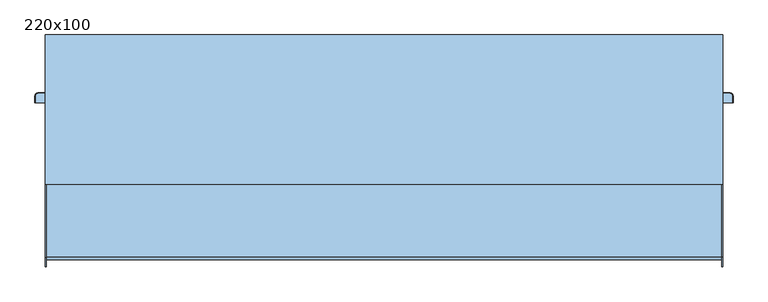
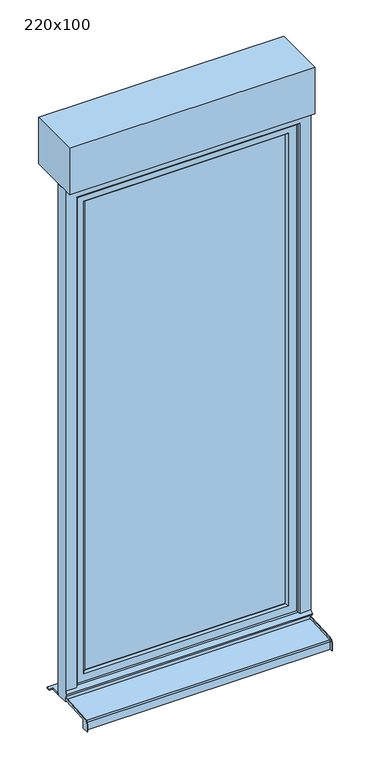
"""IFC4 building model written with IfcOpenShell, lengths in millimetres: window geometry, Tunnel 1V+VR+ Voile : 220x100."""

from ifc_helpers import new_model, si_unit, frame, origin, place, context, project, spatial, polyline, circle_curve, outline, extrude, faceted_brep, source, transform, mapped, element, save
from ifc_brep_helpers import plane_surface, cylinder_surface, revolved_surface, advanced_brep


def window_220x100_16273c3d(model_context):
    return source(origin(), model_context, "Body", "SolidModel", [
        faceted_brep([(-445.5, 73.0, 1306.0), (-445.5, 73.0, 1294.0), (-429.5, 73.0, 1294.0), (-429.5, 73.0, 1306.0), (-429.5, 85.4852814, 1306.0), (-445.5, 85.4852814, 1306.0), (-429.5, 80.5147186, 1294.0), (-429.5, 87.0, 1287.5147186), (-429.5, 87.0, 1287.2282668), (-429.5, 89.7580139, 1208.5355339), (-429.5, 99.0, 1208.5355339), (-429.5, 99.0, 1292.4852814), (-445.5, 80.5147186, 1294.0), (-445.5, 99.0, 1292.4852814), (-445.5, 99.0, 1208.5355339), (-445.5, 89.7580139, 1208.5355339), (-445.5, 87.0099909, 1287.2286157), (-445.5, 87.0, 1287.5147186), (-433.0355339, 99.0, 1205.0), (-433.0355339, 89.8814775, 1205.0), (-441.9644661, 89.8814775, 1205.0), (-441.9644661, 99.0, 1205.0)], [[[0, 1, 2, 3]], [[3, 4, 5, 0]], [[2, 6, 7, 8, 9, 10, 11, 4, 3]], [[1, 12, 6, 2]], [[0, 5, 13, 14, 15, 16, 17, 12, 1]], [[4, 11, 13, 5]], [[6, 12, 17, 7]], [[18, 19, 20, 21]], [[11, 10, 18, 21, 14, 13]], [[17, 16, 8, 7]], [[16, 15, 20, 19, 9, 8]], [[9, 19, 18, 10]], [[14, 21, 20, 15]]]),
        extrude(outline(polyline([(1330.0, -444.5), (1325.0, -449.5), (1275.0, -449.5), (1270.0, -444.5), (1270.0, -430.5), (1275.0, -425.5), (1325.0, -425.5), (1330.0, -430.5), (1330.0, -444.5)])), frame((0.0, 65.0, 0.0), z_axis=(0.0, 1.0, 0.0), x_axis=(0.0, 0.0, 1.0)), (0.0, 0.0, 1.0), 8.0),
        advanced_brep(
        [(-500.0, -115.0, 762.0), (-500.0, -141.5, 762.0), (-500.0, -141.5, 795.1063906), (-500.0, -127.2850393, 810.0858337), (-500.0, 10.0, 817.2806377), (-500.0, 10.0, 805.7648557), (-500.0, -115.0, 799.2138833), (500.0, -115.0, 799.2138833), (500.0, 10.0, 805.7648557), (500.0, 10.0, 817.2806377), (500.0, -127.2850393, 810.0858337), (500.0, -141.5, 795.1063906), (500.0, -141.5, 762.0), (500.0, -115.0, 762.0), (-498.0, 10.0, 817.2806377), (-498.0, 10.0, 807.2669142), (498.0, 10.0, 807.2669142), (498.0, 10.0, 817.2806377), (-498.0, -126.7616798, 800.0995383), (498.0, -126.7616798, 800.0995383), (498.0, -131.5, 795.1063906), (-498.0, -131.5, 795.1063906), (-498.0, -131.5, 762.0), (498.0, -131.5, 762.0), (-498.0, -130.0, 762.0), (498.0, -130.0, 762.0), (498.0, -115.0, 762.0), (498.0, -141.5, 762.0), (-498.0, -141.5, 762.0), (-498.0, -115.0, 762.0), (-498.0, -120.0, 772.0), (498.0, -120.0, 772.0), (-498.0, -121.0606602, 773.0606602), (498.0, -121.0606602, 773.0606602), (-498.0, -130.0, 764.1213203), (498.0, -130.0, 764.1213203), (-498.0, -130.0, 795.0728058), (498.0, -130.0, 795.0728058), (-498.0, -115.0, 799.2138833), (498.0, -115.0, 799.2138833), (498.0, -126.649637, 798.6033517), (-498.0, -126.649637, 798.6033517), (498.0, -141.5, 795.1063906), (498.0, -127.2850393, 810.0858337), (-498.0, -127.2850393, 810.0858337), (-498.0, -141.5, 795.1063906)],
        [
            (0, 1),
            (1, 2),
            (2, 3, circle_curve(frame((-500.0, -126.5, 795.1063906), z_axis=(-1.0, 0.0, 0.0), x_axis=(0.0, -0.05233595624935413, 0.9986295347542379)), 15.0)),
            (3, 4),
            (4, 5),
            (5, 6),
            (6, 0),
            (7, 8),
            (8, 9),
            (9, 10),
            (10, 11, circle_curve(frame((500.0, -126.5, 795.1063906), z_axis=(1.0, 0.0, 0.0), x_axis=(0.0, -1.0, 0.0)), 15.0)),
            (11, 12),
            (12, 13),
            (13, 7),
            (14, 15),
            (15, 16),
            (16, 17),
            (17, 9),
            (8, 5),
            (4, 14),
            (18, 19),
            (19, 16),
            (15, 18),
            (20, 21),
            (21, 22),
            (22, 23),
            (23, 20),
            (24, 25),
            (25, 26),
            (26, 13),
            (12, 27),
            (27, 23),
            (22, 28),
            (28, 1),
            (0, 29),
            (29, 24),
            (30, 31),
            (31, 25),
            (24, 30),
            (32, 33),
            (33, 31),
            (30, 32),
            (34, 35),
            (35, 33),
            (32, 34),
            (36, 37),
            (37, 35),
            (34, 36),
            (38, 6),
            (7, 39),
            (39, 40),
            (40, 41),
            (41, 38),
            (41, 36, circle_curve(frame((-498.0, -126.4646089, 795.0728058), z_axis=(1.0, 0.0, 0.0), x_axis=(0.0, 1.0, 0.0)), 3.5353911)),
            (29, 38),
            (37, 40, circle_curve(frame((498.0, -126.4646089, 795.0728058), z_axis=(-1.0, 0.0, 0.0), x_axis=(0.0, 1.0, 0.0)), 3.5353911)),
            (39, 26),
            (18, 21, circle_curve(frame((-498.0, -126.5, 795.1063906), z_axis=(1.0, 0.0, 0.0), x_axis=(0.0, 1.0, 0.0)), 5.0)),
            (20, 19, circle_curve(frame((498.0, -126.5, 795.1063906), z_axis=(-1.0, 0.0, 0.0), x_axis=(0.0, 1.0, 0.0)), 5.0)),
            (27, 42),
            (42, 43, circle_curve(frame((498.0, -126.5, 795.1063906), z_axis=(-1.0, 0.0, 0.0), x_axis=(0.0, -1.0, 0.0)), 15.0)),
            (43, 17),
            (11, 42),
            (10, 43),
            (14, 44),
            (44, 45, circle_curve(frame((-498.0, -126.5, 795.1063906), z_axis=(1.0, 0.0, 0.0), x_axis=(0.0, -0.05233595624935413, 0.9986295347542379)), 15.0)),
            (45, 28),
            (3, 44),
            (2, 45),
        ],
        [
            plane_surface(frame((-500.0, 10.0, 805.7648557), z_axis=(-1.0, 0.0, 0.0), x_axis=(0.0, 0.0, 1.0))),
            plane_surface(frame((500.0, 10.0, 805.7648557), z_axis=(1.0, 0.0, 0.0), x_axis=(0.0, 0.0, -1.0))),
            plane_surface(frame((-500.0, 10.0, 805.7648557), z_axis=(0.0, 1.0, 0.0), x_axis=(1.0, 0.0, 0.0))),
            plane_surface(frame((-500.0, 10.0, 807.2669142), z_axis=(0.0, -0.052335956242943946, 0.9986295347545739), x_axis=(1.0, 0.0, 0.0))),
            plane_surface(frame((-500.0, -131.5, 795.1063906), z_axis=(0.0, -1.0, 0.0), x_axis=(1.0, 0.0, 0.0))),
            plane_surface(frame((-500.0, -131.5, 762.0), z_axis=(0.0, 0.0, -1.0), x_axis=(1.0, 0.0, 0.0))),
            plane_surface(frame((-500.0, -130.0, 762.0), z_axis=(0.0, 0.7071067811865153, -0.7071067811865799), x_axis=(1.0, 0.0, 0.0))),
            plane_surface(frame((-500.0, -120.0, 772.0), z_axis=(0.0, 0.7071067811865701, 0.707106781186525), x_axis=(1.0, 0.0, 0.0))),
            plane_surface(frame((-500.0, -121.0606602, 773.0606602), z_axis=(0.0, -0.7071067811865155, 0.7071067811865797), x_axis=(1.0, 0.0, 0.0))),
            plane_surface(frame((-500.0, -130.0, 764.1213203), z_axis=(0.0, 1.0, 0.0), x_axis=(1.0, 0.0, 0.0))),
            plane_surface(frame((-500.0, -126.649637, 798.6033517), z_axis=(0.0, 0.0523359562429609, -0.998629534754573), x_axis=(1.0, 0.0, 0.0))),
            plane_surface(frame((-498.0, -130.0, 798.4277666), z_axis=(1.0, 0.0, 0.0), x_axis=(0.0, 0.9986295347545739, 0.05233595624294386))),
            plane_surface(frame((-500.0, -115.0, 762.0), z_axis=(0.0, 1.0, 0.0), x_axis=(1.0, 0.0, 0.0))),
            plane_surface(frame((498.0, -130.0, 798.4277666), z_axis=(-1.0, 0.0, 0.0), x_axis=(0.0, 0.0, -1.0))),
            plane_surface(frame((498.0, -115.0, 762.0), z_axis=(0.0, 1.0, 0.0), x_axis=(1.0, 0.0, 0.0))),
            cylinder_surface(frame((500.0, -126.5, 795.1063906), z_axis=(-1.0, 0.0, 0.0), x_axis=(0.0, 1.0, 0.0)), 5.0),
            revolved_surface(polyline([(498.0, -122.9292178, 795.0728058), (-498.0, -122.9292178, 795.0728058)]), (500.0, -126.4646089, 795.0728058), (1.0, 0.0, 0.0)),
            plane_surface(frame((498.0, -131.5, 762.0), z_axis=(-1.0, 0.0, 0.0), x_axis=(0.0, 0.0, 1.0))),
            plane_surface(frame((498.0, -141.5, 762.0), z_axis=(0.0, -1.0, 0.0), x_axis=(0.0, 0.0, 1.0))),
            cylinder_surface(frame((500.0, -126.5, 795.1063906), z_axis=(1.0, 0.0, 0.0), x_axis=(0.0, -1.0, 0.0)), 15.0),
            plane_surface(frame((498.0, -127.2850393, 810.0858337), z_axis=(0.0, -0.0523359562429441, 0.9986295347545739), x_axis=(0.0, 0.9986295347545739, 0.0523359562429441))),
            plane_surface(frame((-498.0, 10.0, 817.2806377), z_axis=(1.0, 0.0, 0.0), x_axis=(0.0, 0.9986295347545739, 0.05233595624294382))),
            plane_surface(frame((-500.0, 10.0, 817.2806377), z_axis=(0.0, -0.05233595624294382, 0.9986295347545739), x_axis=(1.0, 0.0, 0.0))),
            cylinder_surface(frame((-500.0, -126.5, 795.1063906), z_axis=(-1.0, 0.0, 0.0), x_axis=(0.0, -0.05233595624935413, 0.9986295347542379)), 15.0),
            plane_surface(frame((-498.0, -141.5, 795.1063906), z_axis=(0.0, -1.0, 0.0), x_axis=(0.0, 0.0, -1.0))),
        ],
        [
            (0, [[1, 2, 3, 4, 5, 6, 7]]),
            (1, [[8, 9, 10, 11, 12, 13, 14]]),
            (2, [[15, 16, 17, 18, -9, 19, -5, 20]]),
            (3, [[21, 22, -16, 23]]),
            (4, [[24, 25, 26, 27]]),
            (5, [[28, 29, 30, -13, 31, 32, -26, 33, 34, -1, 35, 36]]),
            (6, [[37, 38, -28, 39]]),
            (7, [[40, 41, -37, 42]]),
            (8, [[43, 44, -40, 45]]),
            (9, [[46, 47, -43, 48]]),
            (10, [[49, -6, -19, -8, 50, 51, 52, 53]]),
            (11, [[-53, 54, -48, -45, -42, -39, -36, 55]]),
            (12, [[-35, -7, -49, -55]]),
            (13, [[-38, -41, -44, -47, 56, -51, 57, -29]]),
            (14, [[-50, -14, -30, -57]]),
            (15, [[-21, 58, -24, 59]]),
            (16, [[-52, -56, -46, -54]]),
            (17, [[60, 61, 62, -17, -22, -59, -27, -32]]),
            (18, [[-12, 63, -60, -31]]),
            (19, [[64, -61, -63, -11]]),
            (20, [[-10, -18, -62, -64]]),
            (21, [[65, 66, 67, -33, -25, -58, -23, -15]]),
            (22, [[68, -65, -20, -4]]),
            (23, [[69, -66, -68, -3]]),
            (24, [[-34, -67, -69, -2]]),
        ],
    ),
        extrude(outline(polyline([(-410.0, 55.0), (410.0, 55.0), (410.0, 35.0), (-410.0, 35.0), (-410.0, 55.0)])), frame((0.0, 0.0, 890.0), z_axis=(0.0, 0.0, 1.0), x_axis=(1.0, 0.0, 0.0)), (0.0, 0.0, 1.0), 2020.0),
        faceted_brep([(-460.0, 65.0, 840.0), (460.0, 65.0, 840.0), (460.0, 25.0, 840.0), (-460.0, 25.0, 840.0), (460.0, 65.0, 2960.0), (460.0, 25.0, 2960.0), (-460.0, 25.0, 2960.0), (417.0710678, 25.0, 2917.0710678), (417.0710678, 25.0, 882.9289322), (-417.0710678, 25.0, 882.9289322), (-417.0710678, 25.0, 2917.0710678), (-460.0, 65.0, 2960.0), (417.0710678, 65.0, 882.9289322), (417.0710678, 65.0, 2917.0710678), (-417.0710678, 65.0, 2917.0710678), (-417.0710678, 65.0, 882.9289322), (-410.0, 57.9289322, 890.0), (410.0, 57.9289322, 890.0), (410.0, 57.9289322, 2910.0), (410.0, 32.0710678, 890.0), (410.0, 32.0710678, 2910.0), (-410.0, 32.0710678, 890.0), (-410.0, 57.9289322, 2910.0), (-410.0, 32.0710678, 2910.0)], [[[0, 1, 2, 3]], [[1, 4, 5, 2]], [[2, 5, 6, 3], [7, 8, 9, 10]], [[4, 1, 0, 11], [12, 13, 14, 15]], [[16, 17, 12, 15]], [[17, 18, 13, 12]], [[19, 20, 18, 17]], [[9, 8, 19, 21]], [[8, 7, 20, 19]], [[11, 0, 3, 6]], [[22, 16, 15, 14]], [[23, 21, 16, 22]], [[10, 9, 21, 23]], [[21, 19, 17, 16]], [[4, 11, 6, 5]], [[18, 22, 14, 13]], [[7, 10, 23, 20]], [[20, 23, 22, 18]]]),
        faceted_brep([(500.0, 10.0, 800.0), (500.0, 60.0, 800.0), (500.0, 60.0, 3000.0), (500.0, 10.0, 3000.0), (500.0, 10.0, 845.0), (500.0, 0.0, 835.0), (500.0, 0.0, 830.0), (500.0, 10.0, 830.0), (-500.0, 10.0, 830.0), (-500.0, 10.0, 800.0), (-500.0, 0.0, 830.0), (-500.0, 0.0, 835.0), (455.0, 10.0, 845.0), (450.0, 15.0, 850.0), (-450.0, 15.0, 850.0), (-455.0, 10.0, 845.0), (-500.0, 10.0, 845.0), (-500.0, 10.0, 3000.0), (-455.0, 10.0, 2955.0), (455.0, 10.0, 2955.0), (-500.0, 60.0, 800.0), (-500.0, 60.0, 3000.0), (460.0, 60.0, 840.0), (460.0, 60.0, 2960.0), (-460.0, 60.0, 2960.0), (-460.0, 60.0, 840.0), (-460.0, 25.0, 840.0), (460.0, 25.0, 840.0), (-460.0, 25.0, 2960.0), (460.0, 25.0, 2960.0), (450.0, 25.0, 850.0), (450.0, 25.0, 2950.0), (-450.0, 25.0, 2950.0), (-450.0, 25.0, 850.0), (-450.0, 15.0, 2950.0), (450.0, 15.0, 2950.0)], [[[0, 1, 2, 3, 4, 5, 6, 7]], [[7, 8, 9, 0]], [[6, 10, 8, 7]], [[5, 11, 10, 6]], [[5, 4, 12, 13, 14, 15, 16, 11]], [[17, 16, 15, 18, 19, 12, 4, 3]], [[1, 20, 21, 2], [22, 23, 24, 25]], [[0, 9, 20, 1]], [[9, 8, 10, 11, 16, 17, 21, 20]], [[25, 26, 27, 22]], [[26, 25, 24, 28]], [[22, 27, 29, 23]], [[29, 27, 26, 28], [30, 31, 32, 33]], [[33, 14, 13, 30]], [[34, 14, 33, 32]], [[31, 30, 13, 35]], [[35, 13, 12, 19]], [[18, 15, 14, 34]], [[3, 2, 21, 17]], [[28, 24, 23, 29]], [[31, 35, 34, 32]], [[18, 34, 35, 19]]]),
        advanced_brep(
        [(500.0, 100.0, 805.0), (513.9971508, 100.0, 805.0), (513.9971508, 110.0, 805.0), (510.0, 113.9971508, 805.0), (-510.0, 113.9971508, 805.0), (-513.9971508, 110.0, 805.0), (-513.9971508, 100.0, 805.0), (-500.0, 100.0, 805.0), (-500.0, 60.0, 805.0), (500.0, 60.0, 805.0), (-500.0, 100.0, 800.0), (-513.9971508, 100.0, 800.0), (-513.9971508, 110.0, 800.0), (-510.0, 113.9971508, 800.0), (510.0, 113.9971508, 800.0), (513.9971508, 110.0, 800.0), (513.9971508, 100.0, 800.0), (500.0, 100.0, 800.0), (500.0, 60.0, 800.0), (-500.0, 60.0, 800.0), (-515.0, 110.0, 801.0028492), (-515.0, 100.0, 801.0028492), (-515.0, 100.0, 803.9971508), (-515.0, 110.0, 803.9971508), (515.0, 100.0, 801.0028492), (515.0, 100.0, 803.9971508), (515.0, 110.0, 801.0028492), (515.0, 110.0, 803.9971508), (510.0, 115.0, 801.0028492), (-510.0, 115.0, 801.0028492), (-510.0, 115.0, 803.9971508), (510.0, 115.0, 803.9971508)],
        [
            (0, 1),
            (1, 2),
            (2, 3, circle_curve(frame((510.0, 110.0, 805.0), z_axis=(0.0, 0.0, 1.0), x_axis=(0.0, 1.0, 0.0)), 3.9971508)),
            (3, 4),
            (4, 5, circle_curve(frame((-510.0, 110.0, 805.0), z_axis=(0.0, 0.0, 1.0), x_axis=(-1.0, 0.0, 0.0)), 3.9971508)),
            (5, 6),
            (6, 7),
            (7, 8),
            (8, 9),
            (9, 0),
            (10, 11),
            (11, 12),
            (12, 13, circle_curve(frame((-510.0, 110.0, 800.0), z_axis=(0.0, 0.0, -1.0), x_axis=(-1.0, 0.0, 0.0)), 3.9971508)),
            (13, 14),
            (14, 15, circle_curve(frame((510.0, 110.0, 800.0), z_axis=(0.0, 0.0, -1.0), x_axis=(0.0, 1.0, 0.0)), 3.9971508)),
            (15, 16),
            (16, 17),
            (17, 18),
            (18, 19),
            (19, 10),
            (20, 21),
            (21, 22),
            (22, 23),
            (23, 20),
            (6, 22),
            (21, 11),
            (10, 7),
            (19, 8),
            (18, 9),
            (17, 0),
            (16, 24),
            (24, 25),
            (25, 1),
            (24, 26),
            (26, 27),
            (27, 25),
            (28, 29),
            (29, 30),
            (30, 31),
            (31, 28),
            (31, 27, circle_curve(frame((510.0, 110.0, 803.9971508), z_axis=(0.0, 0.0, -1.0), x_axis=(0.0, 1.0, 0.0)), 5.0)),
            (26, 28, circle_curve(frame((510.0, 110.0, 801.0028492), z_axis=(0.0, 0.0, 1.0), x_axis=(0.0, 1.0, 0.0)), 5.0)),
            (23, 30, circle_curve(frame((-510.0, 110.0, 803.9971508), z_axis=(0.0, 0.0, -1.0), x_axis=(0.0, 1.0, 0.0)), 5.0)),
            (29, 20, circle_curve(frame((-510.0, 110.0, 801.0028492), z_axis=(0.0, 0.0, 1.0), x_axis=(0.0, 1.0, 0.0)), 5.0)),
            (5, 23),
            (20, 12),
            (4, 30),
            (29, 13),
            (3, 31),
            (28, 14),
            (2, 27),
            (26, 15),
        ],
        [
            plane_surface(frame((-515.0, 100.0, 805.0), z_axis=(0.0, 0.0, 1.0), x_axis=(0.0, 1.0, 0.0))),
            plane_surface(frame((-515.0, 100.0, 800.0), z_axis=(0.0, 0.0, -1.0), x_axis=(0.0, -1.0, 0.0))),
            plane_surface(frame((-515.0, 110.0, 800.0), z_axis=(-1.0, 0.0, 0.0), x_axis=(0.0, 0.0, 1.0))),
            plane_surface(frame((-515.0, 100.0, 800.0), z_axis=(0.0, -1.0, 0.0), x_axis=(0.0, 0.0, 1.0))),
            plane_surface(frame((-500.0, 100.0, 800.0), z_axis=(-1.0, 0.0, 0.0), x_axis=(0.0, 0.0, 1.0))),
            plane_surface(frame((-500.0, 60.0, 800.0), z_axis=(0.0, -1.0, 0.0), x_axis=(0.0, 0.0, 1.0))),
            plane_surface(frame((500.0, 60.0, 800.0), z_axis=(1.0, 0.0, 0.0), x_axis=(0.0, 0.0, 1.0))),
            plane_surface(frame((500.0, 100.0, 800.0), z_axis=(0.0, -1.0, 0.0), x_axis=(0.0, 0.0, 1.0))),
            plane_surface(frame((515.0, 100.0, 800.0), z_axis=(1.0, 0.0, 0.0), x_axis=(0.0, 0.0, 1.0))),
            plane_surface(frame((510.0, 115.0, 800.0), z_axis=(0.0, 1.0, 0.0), x_axis=(0.0, 0.0, 1.0))),
            cylinder_surface(frame((510.0, 110.0, 805.0), z_axis=(0.0, 0.0, -1.0), x_axis=(0.0, 1.0, 0.0)), 5.0),
            cylinder_surface(frame((-510.0, 110.0, 805.0), z_axis=(0.0, 0.0, -1.0), x_axis=(0.0, 1.0, 0.0)), 5.0),
            plane_surface(frame((-513.9971508, 100.0, 805.0), z_axis=(-0.7071067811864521, 0.0, 0.707106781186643), x_axis=(0.0, 1.0, 0.0))),
            plane_surface(frame((-515.0, 100.0, 801.0028492), z_axis=(-0.7071067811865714, 0.0, -0.7071067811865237), x_axis=(0.0, 1.0, 0.0))),
            revolved_surface(polyline([(-515.0, 110.0, 803.9971508), (-513.9971508, 110.0, 805.0)]), (-510.0, 110.0, 805.0), (0.0, 0.0, 1.0)),
            revolved_surface(polyline([(-513.9971508, 110.0, 800.0), (-515.0, 110.0, 801.0028492)]), (-510.0, 110.0, 805.0), (0.0, 0.0, 1.0)),
            plane_surface(frame((-510.0, 113.9971508, 805.0), z_axis=(0.0, 0.7071067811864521, 0.707106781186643), x_axis=(1.0, 0.0, 0.0))),
            plane_surface(frame((-510.0, 115.0, 801.0028492), z_axis=(0.0, 0.7071067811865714, -0.7071067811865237), x_axis=(1.0, 0.0, 0.0))),
            revolved_surface(polyline([(510.0, 115.0, 803.9971508), (510.0, 113.9971508, 805.0)]), (510.0, 110.0, 805.0), (0.0, 0.0, 1.0)),
            revolved_surface(polyline([(510.0, 113.9971508, 800.0), (510.0, 115.0, 801.0028492)]), (510.0, 110.0, 805.0), (0.0, 0.0, 1.0)),
            plane_surface(frame((513.9971508, 110.0, 805.0), z_axis=(0.7071067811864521, 0.0, 0.707106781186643), x_axis=(0.0, -1.0, 0.0))),
            plane_surface(frame((515.0, 110.0, 801.0028492), z_axis=(0.7071067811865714, 0.0, -0.7071067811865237), x_axis=(0.0, -1.0, 0.0))),
        ],
        [
            (0, [[1, 2, 3, 4, 5, 6, 7, 8, 9, 10]]),
            (1, [[11, 12, 13, 14, 15, 16, 17, 18, 19, 20]]),
            (2, [[21, 22, 23, 24]]),
            (3, [[-7, 25, -22, 26, -11, 27]]),
            (4, [[-27, -20, 28, -8]]),
            (5, [[-28, -19, 29, -9]]),
            (6, [[-29, -18, 30, -10]]),
            (7, [[-17, 31, 32, 33, -1, -30]]),
            (8, [[34, 35, 36, -32]]),
            (9, [[37, 38, 39, 40]]),
            (10, [[41, -35, 42, -40]]),
            (11, [[43, -38, 44, -24]]),
            (12, [[-23, -25, -6, 45]]),
            (13, [[-12, -26, -21, 46]]),
            (14, [[-5, 47, -43, -45]]),
            (15, [[-44, 48, -13, -46]]),
            (16, [[-4, 49, -39, -47]]),
            (17, [[-37, 50, -14, -48]]),
            (18, [[-3, 51, -41, -49]]),
            (19, [[-42, 52, -15, -50]]),
            (20, [[-2, -33, -36, -51]]),
            (21, [[-34, -31, -16, -52]]),
        ],
    ),
        extrude(outline(polyline([(-500.0, 200.0), (500.0, 200.0), (500.0, -20.0), (-500.0, -20.0), (-500.0, 200.0)])), frame((0.0, 0.0, 3000.0), z_axis=(0.0, 0.0, 1.0), x_axis=(1.0, 0.0, 0.0)), (0.0, 0.0, 1.0), 200.0),
    ])


if __name__ == "__main__":
    model = new_model("IFC4")
    model_context = context("Model", 3, world=origin())
    ifc_project = project(units=[si_unit("LENGTHUNIT", "METRE", prefix="MILLI")], contexts=[model_context])
    site = spatial("IfcSite", under=ifc_project)
    building = spatial("IfcBuilding", under=site)
    placement = place(None, origin())
    window_220x100_shape = window_220x100_16273c3d(model_context)
    element("IfcWindow", 1, ObjectType="Tunnel 1V+VR+ Voile : 220x100", at=placement, inside=building, context=model_context, shape_type="MappedRepresentation", body=[
        mapped(window_220x100_shape, transform((0.0, 0.0, 0.0), x_axis=(1.0, 0.0, 0.0), y_axis=(0.0, 1.0, 0.0), z_axis=(0.0, 0.0, 1.0))),
    ])
    save(model, "model.ifc")
